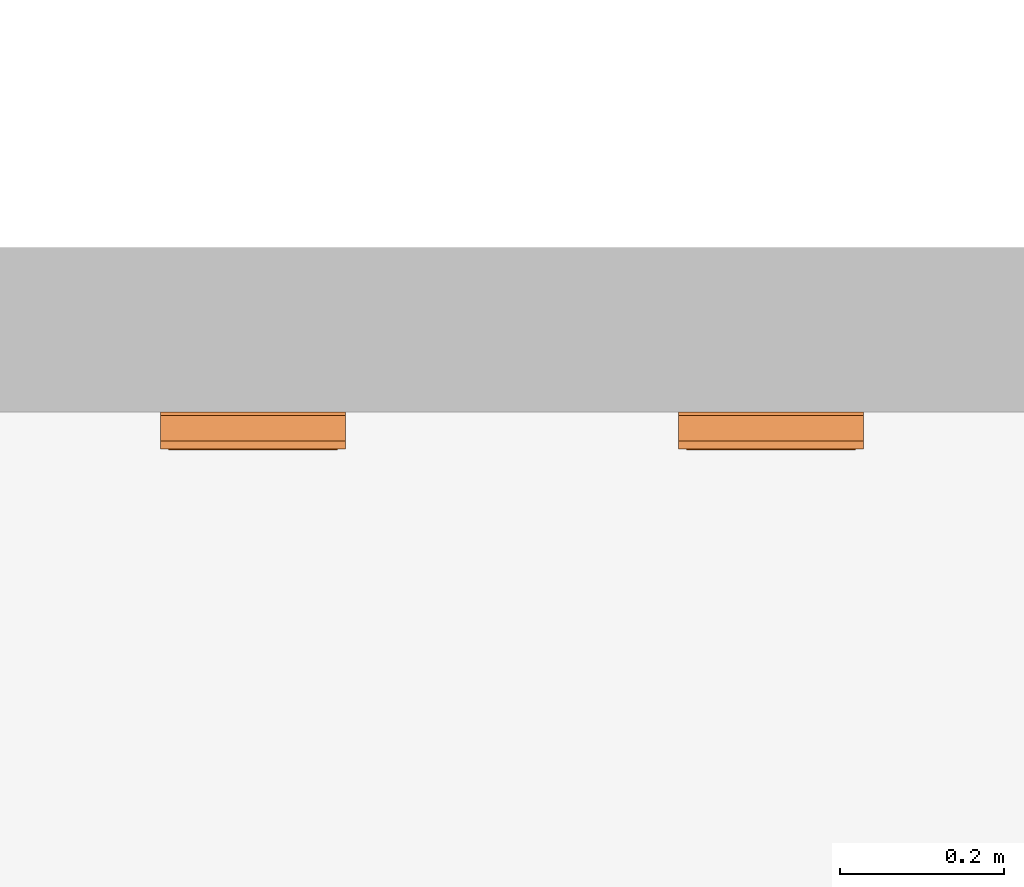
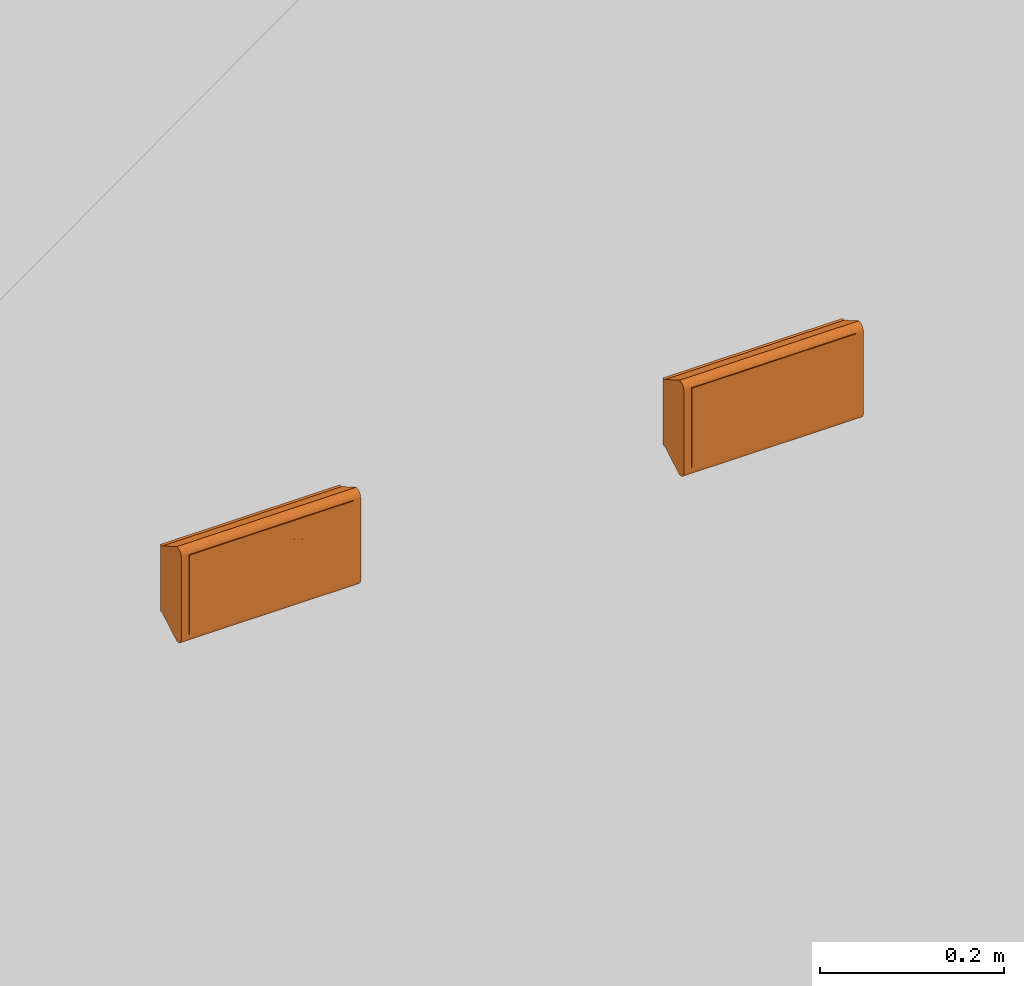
# One storey, part 62 of 197: 2 proxies.
"""IFC2X3 building model written with IfcOpenShell, lengths in metres."""

from ifc_helpers import new_model, entity, si_unit, converted_unit, direction, frame, frame_2d, origin, place, context, subcontext, project, spatial, polyline, circle_curve, parameter, trimmed, segment, composite_curve, circle, outline, extrude, source, transform, mapped, material, material_list, type_object, type_shapes, element, save


model = new_model("IFC2X3")

# Units and contexts
model_context = context("Model", 3, precision=1e-05, world=origin(), true_north=direction((6.123031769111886e-17, 1.0)))
body_context = subcontext(model_context, "Body", "Model", "MODEL_VIEW")
ifc_project = project(units=[si_unit("LENGTHUNIT", "METRE"), converted_unit("PLANEANGLEUNIT", "DEGREE", entity("IfcPlaneAngleMeasure", 0.017453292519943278), si_unit("PLANEANGLEUNIT", "RADIAN"), dimensions=[0, 0, 0, 0, 0, 0, 0]), si_unit("AREAUNIT", "SQUARE_METRE")], contexts=[model_context])

# Site, building, storey
site_placement = place(None, origin())
site = spatial("IfcSite", under=ifc_project, at=site_placement, Name="Default", CompositionType="ELEMENT")
building_placement = place(site_placement, origin())
building = spatial("IfcBuilding", under=site, at=building_placement, CompositionType="ELEMENT")
storey_placement = place(building_placement, origin())
storey = spatial("IfcBuildingStorey", under=building, at=storey_placement, Name="Niveau 0", CompositionType="ELEMENT", Elevation=0.0)

# Proxies
ifc_material_1 = material(Name="BETCE-ENVELOPPE BAES-BLANC")
ifc_material_2 = material(Name="BETCE-ETIQUETTE-VERT 0-193-0")
ifc_material_3 = material(Name="BETCE-VITRE BAES-BLEU")
ifc_material_list = material_list([ifc_material_1, ifc_material_2, ifc_material_3])
building_element_proxy_type_1 = type_object("IfcBuildingElementProxyType", Name="Eclairage de sécurité saillie mur:GAUCHE", PredefinedType="NOTDEFINED", material=ifc_material_list)
shared_shape_1 = source(origin(), body_context, "Body", "SweptSolid", [
    extrude(outline(polyline([(-0.028959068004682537, -0.03330292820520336), (0.0122311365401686, -0.03330292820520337), (0.029966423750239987, -0.012907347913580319), (0.00310324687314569, -0.012907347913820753), (0.03240502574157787, 0.020789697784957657), (0.016088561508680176, 0.034977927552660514), (-0.013213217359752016, 0.0012808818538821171), (-0.016943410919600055, 0.02788381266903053), (-0.03467869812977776, 0.007488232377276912), (-0.028959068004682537, -0.03330292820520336)])), frame((-0.045353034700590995, -0.04599999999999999, 0.0), z_axis=(0.0, 1.0, 0.0), x_axis=(0.6561787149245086, 0.0, 0.7546055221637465)), (0.0, 0.0, 1.0), 0.0010000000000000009),
    extrude(outline(composite_curve([segment(trimmed(circle_curve(frame_2d((0.007847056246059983, -0.014059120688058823), x_axis=(-0.6437060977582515, 0.7652728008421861)), 0.0006110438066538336), [parameter(99.86253538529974)], [parameter(179.99999999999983)], True, "PARAMETER"), True, "CONTINUOUS"), segment(trimmed(circle_curve(frame_2d((0.007847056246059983, -0.014059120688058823), x_axis=(-0.6437060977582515, 0.7652728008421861)), 0.0006110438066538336), [parameter(179.99999999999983)], [parameter(260.13746546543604)], True, "PARAMETER"), True, "CONTINUOUS"), segment(polyline([(0.008375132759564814, -0.013751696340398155), (0.001174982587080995, -0.001383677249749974)]), True, "CONTINUOUS"), segment(trimmed(circle_curve(frame_2d((0.0037627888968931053, -0.0003180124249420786), x_axis=(-0.6437060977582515, 0.7652728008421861)), 0.002798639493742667), [parameter(3.811576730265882e-11)], [parameter(72.31324887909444)], True, "PARAMETER"), False, "CONTINUOUS"), segment(polyline([(0.0019612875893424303, 0.0018237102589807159), (0.015386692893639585, 0.013116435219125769)]), True, "CONTINUOUS"), segment(polyline([(0.015386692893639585, 0.013116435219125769), (0.0035080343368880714, 0.027238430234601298)]), True, "CONTINUOUS"), segment(polyline([(0.0035080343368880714, 0.027238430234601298), (-0.024968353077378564, 0.0032856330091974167)]), True, "CONTINUOUS"), segment(polyline([(-0.024968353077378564, 0.0032856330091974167), (-0.021131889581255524, -0.001275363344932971)]), True, "CONTINUOUS"), segment(polyline([(-0.021131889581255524, -0.001275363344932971), (0.007453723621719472, -0.01452673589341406)]), True, "CONTINUOUS")], self_intersect=False)), frame((0.04943108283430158, -0.04599999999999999, -0.024210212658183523), z_axis=(0.0, 1.0, 0.0), x_axis=(0.7652728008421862, 0.0, 0.6437060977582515)), (0.0, 0.0, 1.0), 0.001000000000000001),
    extrude(outline(composite_curve([segment(polyline([(-0.011174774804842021, -0.003797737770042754), (-0.011174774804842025, -0.010138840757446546)]), True, "CONTINUOUS"), segment(polyline([(-0.011174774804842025, -0.010138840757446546), (0.03194487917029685, -0.010138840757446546)]), True, "CONTINUOUS"), segment(polyline([(0.03194487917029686, -0.010138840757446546), (0.03194487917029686, -0.0024869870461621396)]), True, "CONTINUOUS"), segment(polyline([(0.03194487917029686, -0.0024869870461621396), (0.026012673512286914, -0.0024869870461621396)]), True, "CONTINUOUS"), segment(polyline([(0.026012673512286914, -0.0024869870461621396), (-0.00566103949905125, 0.01043216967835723)]), True, "CONTINUOUS"), segment(trimmed(circle_curve(frame_2d((-0.0076628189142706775, 0.006850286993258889), x_axis=(1.0, 0.0)), 0.004103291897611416), [parameter(60.800818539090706)], [parameter(115.83024310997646)], True, "PARAMETER"), True, "CONTINUOUS"), segment(polyline([(-0.009450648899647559, 0.010543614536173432), (-0.02014056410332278, 0.005368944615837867)]), True, "CONTINUOUS"), segment(trimmed(circle_curve(frame_2d((-0.01977914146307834, 0.004900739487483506), x_axis=(1.0, 0.0)), 0.0005914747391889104), [parameter(127.66570843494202)], [parameter(232.33429156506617)], True, "PARAMETER"), True, "CONTINUOUS"), segment(polyline([(-0.02014056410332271, 0.004432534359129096), (-0.012160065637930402, -0.0017278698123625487)]), True, "CONTINUOUS"), segment(trimmed(circle_curve(frame_2d((-0.013841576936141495, -0.003797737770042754), x_axis=(1.0, 0.0)), 0.0026668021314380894), [parameter(7.124442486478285e-13)], [parameter(50.91041679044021)], True, "PARAMETER"), False, "CONTINUOUS")], self_intersect=False)), frame((0.0281756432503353, -0.046, -0.010852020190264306), z_axis=(0.0, -1.0, 0.0), x_axis=(0.0, 0.0, -1.0)), (0.0, 0.0, -1.0), 0.001000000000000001),
    extrude(outline(composite_curve([segment(polyline([(-0.031714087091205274, -0.031123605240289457), (0.019898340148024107, -0.031123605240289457)]), True, "CONTINUOUS"), segment(polyline([(0.019898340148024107, -0.031123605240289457), (0.01989834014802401, 0.026433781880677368)]), True, "CONTINUOUS"), segment(polyline([(0.01989834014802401, 0.026433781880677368), (0.006609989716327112, 0.026433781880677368)]), True, "CONTINUOUS"), segment(trimmed(circle_curve(frame_2d((0.006609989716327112, 0.02583378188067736), x_axis=(0.0, 1.0)), 0.0006000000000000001), [parameter(0.0)], [parameter(83.97510158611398)], True, "PARAMETER"), True, "CONTINUOUS"), segment(polyline([(0.006013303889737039, 0.025896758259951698), (0.004507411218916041, 0.011628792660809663)]), True, "CONTINUOUS"), segment(trimmed(circle_curve(frame_2d((-0.009425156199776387, 0.013099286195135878), x_axis=(0.0, 1.0)), 0.014009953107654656), [parameter(240.55607644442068)], [parameter(263.9751015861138)], True, "PARAMETER"), False, "CONTINUOUS"), segment(polyline([(0.002775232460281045, 0.006212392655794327), (-0.003131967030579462, -0.00515324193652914)]), True, "CONTINUOUS"), segment(polyline([(-0.003131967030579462, -0.00515324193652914), (0.0052180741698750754, -0.0051532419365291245)]), True, "CONTINUOUS"), segment(polyline([(0.0052180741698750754, -0.0051532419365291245), (0.011569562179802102, 0.0044364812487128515)]), True, "CONTINUOUS"), segment(trimmed(circle_curve(frame_2d((0.013690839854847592, 0.002734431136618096), x_axis=(0.0, 1.0)), 0.0027197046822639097), [parameter(327.3277331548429)], [parameter(51.25747909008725)], True, "PARAMETER"), False, "CONTINUOUS"), segment(trimmed(circle_curve(frame_2d((0.013690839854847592, 0.0027344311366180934), x_axis=(0.0, 1.0)), 0.0027197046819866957), [parameter(243.39798722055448)], [parameter(327.327733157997)], True, "PARAMETER"), False, "CONTINUOUS"), segment(polyline([(0.016122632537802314, 0.0015165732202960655), (0.00885761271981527, -0.009515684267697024)]), True, "CONTINUOUS"), segment(trimmed(circle_curve(frame_2d((0.004813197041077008, -0.005807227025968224), x_axis=(0.0, 1.0)), 0.0054872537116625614), [parameter(181.8824185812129)], [parameter(227.48126930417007)], True, "PARAMETER"), False, "CONTINUOUS"), segment(polyline([(0.004993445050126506, -0.011291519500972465), (-0.009885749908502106, -0.011291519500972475)]), True, "CONTINUOUS"), segment(trimmed(circle_curve(frame_2d((-0.009885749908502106, 0.0017012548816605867), x_axis=(0.0, 1.0)), 0.012992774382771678), [parameter(133.55500193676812)], [parameter(179.9999999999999)], True, "PARAMETER"), False, "CONTINUOUS"), segment(polyline([(-0.019301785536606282, -0.007251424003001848), (-0.02587529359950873, 0.0021607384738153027)]), True, "CONTINUOUS"), segment(polyline([(-0.02587529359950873, 0.0021607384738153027), (-0.03171408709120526, 0.0021607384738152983)]), True, "CONTINUOUS"), segment(polyline([(-0.03171408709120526, 0.0021607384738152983), (-0.031714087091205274, -0.031123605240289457)]), True, "CONTINUOUS")], self_intersect=False), holes=[composite_curve([segment(trimmed(circle_curve(frame_2d((-0.015960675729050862, -0.017960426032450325), x_axis=(0.0, 1.0)), 0.005405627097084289), [parameter(269.999999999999)], [parameter(359.99999999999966)], True, "PARAMETER"), False, "CONTINUOUS"), segment(trimmed(circle_curve(frame_2d((-0.015960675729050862, -0.017960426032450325), x_axis=(0.0, 1.0)), 0.005405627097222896), [parameter(180.00000000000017)], [parameter(270.0)], True, "PARAMETER"), False, "CONTINUOUS"), segment(trimmed(circle_curve(frame_2d((-0.015960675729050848, -0.017960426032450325), x_axis=(0.0, 1.0)), 0.005405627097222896), [parameter(89.99999999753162)], [parameter(179.9999999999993)], True, "PARAMETER"), False, "CONTINUOUS"), segment(trimmed(circle_curve(frame_2d((-0.015960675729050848, -0.017960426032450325), x_axis=(0.0, 1.0)), 0.005405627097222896), [parameter(359.99999999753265)], [parameter(89.99999999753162)], True, "PARAMETER"), False, "CONTINUOUS")], self_intersect=False)]), frame((0.04975088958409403, -0.04599999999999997, 0.008704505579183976), z_axis=(0.0, 1.0, 0.0), x_axis=(1.0, 0.0, 0.0)), (0.0, 0.0, 1.0), 0.001000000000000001),
    extrude(outline(polyline([(-0.05249999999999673, -0.10299999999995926), (0.05249999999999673, -0.10299999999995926), (0.05249999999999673, 0.10299999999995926), (-0.05249999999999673, 0.10299999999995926), (-0.05249999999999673, -0.10299999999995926)]), holes=[polyline([(0.0, 0.08948593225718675), (0.03108235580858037, 0.062457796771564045), (0.031082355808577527, 0.035429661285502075), (0.010811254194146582, 0.05305670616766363), (0.010811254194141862, 0.0084015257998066), (-0.010811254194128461, 0.008401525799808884), (-0.01081125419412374, 0.05305670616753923), (-0.03108235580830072, 0.03542966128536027), (-0.031082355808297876, 0.062457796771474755), (0.0, 0.08948593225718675)]), composite_curve([segment(polyline([(-0.03982811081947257, -0.018036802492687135), (-0.006543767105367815, -0.018036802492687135)]), True, "CONTINUOUS"), segment(polyline([(-0.006543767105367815, -0.018036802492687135), (-0.006543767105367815, -0.02387559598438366)]), True, "CONTINUOUS"), segment(polyline([(-0.006543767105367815, -0.02387559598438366), (-0.01595592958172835, -0.0304491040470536)]), True, "CONTINUOUS"), segment(trimmed(circle_curve(frame_2d((-0.007003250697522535, -0.039865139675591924), x_axis=(-1.0, 0.0)), 0.012992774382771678), [parameter(313.55500193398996)], [parameter(3.5622212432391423e-13)], True, "PARAMETER"), True, "CONTINUOUS"), segment(polyline([(-0.019996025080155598, -0.039865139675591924), (-0.019996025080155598, -0.05474433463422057)]), True, "CONTINUOUS"), segment(trimmed(circle_curve(frame_2d((-0.014511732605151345, -0.05456408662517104), x_axis=(-1.0, 0.0)), 0.0054872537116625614), [parameter(1.8824185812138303)], [parameter(47.481269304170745)], True, "PARAMETER"), True, "CONTINUOUS"), segment(polyline([(-0.018220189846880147, -0.0586085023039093), (-0.0071879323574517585, -0.0658735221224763)]), True, "CONTINUOUS"), segment(trimmed(circle_curve(frame_2d((-0.005970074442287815, -0.06344172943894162), x_axis=(-1.0, 0.0)), 0.0027197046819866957), [parameter(63.39798724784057)], [parameter(147.32773315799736)], True, "PARAMETER"), True, "CONTINUOUS"), segment(trimmed(circle_curve(frame_2d((-0.005970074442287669, -0.06344172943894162), x_axis=(-1.0, 0.0)), 0.0027197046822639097), [parameter(147.3277331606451)], [parameter(231.25747905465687)], True, "PARAMETER"), True, "CONTINUOUS"), segment(polyline([(-0.0042680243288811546, -0.061320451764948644), (-0.013857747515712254, -0.05496896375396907)]), True, "CONTINUOUS"), segment(polyline([(-0.013857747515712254, -0.05496896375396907), (-0.013857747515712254, -0.046618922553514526)]), True, "CONTINUOUS"), segment(polyline([(-0.013857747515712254, -0.046618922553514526), (-0.002492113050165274, -0.052526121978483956)]), True, "CONTINUOUS"), segment(trimmed(circle_curve(frame_2d((0.004394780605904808, -0.04032573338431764), x_axis=(-1.0, 0.0)), 0.014009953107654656), [parameter(60.556075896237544)], [parameter(83.9751015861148)], True, "PARAMETER"), True, "CONTINUOUS"), segment(polyline([(0.0029242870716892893, -0.05425830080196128), (0.017192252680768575, -0.05576419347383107)]), True, "CONTINUOUS"), segment(trimmed(circle_curve(frame_2d((0.017129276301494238, -0.05636087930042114), x_axis=(-1.0, 0.0)), 0.0006000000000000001), [parameter(180.00000000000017)], [parameter(263.9751015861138)], True, "PARAMETER"), False, "CONTINUOUS"), segment(polyline([(0.017729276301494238, -0.05636087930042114), (0.017729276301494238, -0.06964922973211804)]), True, "CONTINUOUS"), segment(polyline([(0.017729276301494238, -0.06964922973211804), (-0.03982811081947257, -0.06964922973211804)]), True, "CONTINUOUS"), segment(polyline([(-0.03982811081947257, -0.06964922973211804), (-0.03982811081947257, -0.018036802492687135)]), True, "CONTINUOUS")], self_intersect=False), composite_curve([segment(polyline([(0.042796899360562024, -0.06964922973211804), (0.024343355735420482, -0.06964922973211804)]), True, "CONTINUOUS"), segment(polyline([(0.024343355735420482, -0.06964922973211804), (0.024343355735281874, -0.05210593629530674)]), True, "CONTINUOUS"), segment(trimmed(circle_curve(frame_2d((0.0215447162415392, -0.05210593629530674), x_axis=(-1.0, 0.0)), 0.002798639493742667), [parameter(179.99999999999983)], [parameter(252.3132488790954)], True, "PARAMETER"), True, "CONTINUOUS"), segment(polyline([(0.022394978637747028, -0.04943958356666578), (0.008295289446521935, -0.04698829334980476)]), True, "CONTINUOUS"), segment(trimmed(circle_curve(frame_2d((0.008399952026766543, -0.04638627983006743), x_axis=(-1.0, 0.0)), 0.0006110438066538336), [parameter(0.0)], [parameter(80.13746546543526)], True, "PARAMETER"), False, "CONTINUOUS"), segment(trimmed(circle_curve(frame_2d((0.008399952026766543, -0.04638627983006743), x_axis=(-1.0, 0.0)), 0.0006110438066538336), [parameter(279.86253451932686)], [parameter(0.0)], True, "PARAMETER"), False, "CONTINUOUS"), segment(polyline([(0.008295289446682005, -0.04578426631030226), (0.03683693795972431, -0.03243846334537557)]), True, "CONTINUOUS"), segment(polyline([(0.03683693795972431, -0.03243846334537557), (0.042796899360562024, -0.03243846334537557)]), True, "CONTINUOUS"), segment(polyline([(0.042796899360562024, -0.03243846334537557), (0.042796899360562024, -0.06964922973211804)]), True, "CONTINUOUS")], self_intersect=False), composite_curve([segment(polyline([(0.042796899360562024, -0.018036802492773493), (0.042796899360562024, -0.025688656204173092)]), True, "CONTINUOUS"), segment(polyline([(0.042796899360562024, -0.025688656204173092), (0.03686469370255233, -0.025688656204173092)]), True, "CONTINUOUS"), segment(polyline([(0.03686469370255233, -0.025688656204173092), (0.005190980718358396, -0.03860781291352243)]), True, "CONTINUOUS"), segment(trimmed(circle_curve(frame_2d((0.0031892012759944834, -0.03502593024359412), x_axis=(-1.0, 0.0)), 0.004103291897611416), [parameter(64.16975689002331)], [parameter(119.19918189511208)], True, "PARAMETER"), False, "CONTINUOUS"), segment(polyline([(0.001401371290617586, -0.03871925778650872), (-0.009288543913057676, -0.03354458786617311)]), True, "CONTINUOUS"), segment(trimmed(circle_curve(frame_2d((-0.008927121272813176, -0.03307638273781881), x_axis=(-1.0, 0.0)), 0.0005914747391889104), [parameter(307.6657084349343)], [parameter(52.33429156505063)], True, "PARAMETER"), False, "CONTINUOUS"), segment(polyline([(-0.009288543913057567, -0.032608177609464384), (-0.0013080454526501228, -0.02644777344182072)]), True, "CONTINUOUS"), segment(trimmed(circle_curve(frame_2d((-0.002989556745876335, -0.024377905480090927), x_axis=(-1.0, 0.0)), 0.0026668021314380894), [parameter(129.08958307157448)], [parameter(180.00000000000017)], True, "PARAMETER"), True, "CONTINUOUS"), segment(polyline([(-0.00032275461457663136, -0.02437790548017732), (-0.00032275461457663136, -0.018036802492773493)]), True, "CONTINUOUS"), segment(polyline([(-0.00032275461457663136, -0.018036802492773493), (0.042796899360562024, -0.018036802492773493)]), True, "CONTINUOUS")], self_intersect=False)]), frame((0.0, -0.046, 0.0), z_axis=(0.0, 1.0, 0.0), x_axis=(0.0, 0.0, -1.0)), (0.0, 0.0, 1.0), 0.001000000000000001),
    extrude(circle(Radius=0.005405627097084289, at=frame_2d((0.0, -2.3552360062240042e-14), x_axis=(1.0, 0.0))), frame((0.03379021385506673, -0.046, 0.0266649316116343), z_axis=(0.0, 1.0, 0.0), x_axis=(0.0, 0.0, 1.0)), (0.0, 0.0, 1.0), 0.001000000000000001),
    extrude(outline(composite_curve([segment(trimmed(circle_curve(frame_2d((-0.0020000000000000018, -0.054499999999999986), x_axis=(1.0, 0.0)), 0.008), [parameter(270.0000000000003)], [parameter(3.5622212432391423e-13)], True, "PARAMETER"), True, "CONTINUOUS"), segment(polyline([(0.005999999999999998, -0.05449999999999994), (0.005999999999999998, 0.05450000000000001)]), True, "CONTINUOUS"), segment(trimmed(circle_curve(frame_2d((-0.0020000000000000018, 0.05450000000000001), x_axis=(1.0, 0.0)), 0.008), [parameter(359.9999999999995)], [parameter(89.99999999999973)], True, "PARAMETER"), True, "CONTINUOUS"), segment(polyline([(-0.001999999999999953, 0.06250000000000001), (-0.003999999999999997, 0.06250000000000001)]), True, "CONTINUOUS"), segment(polyline([(-0.003999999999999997, 0.06250000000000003), (-0.003999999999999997, -0.062499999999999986)]), True, "CONTINUOUS"), segment(polyline([(-0.003999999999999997, -0.0625), (-0.0020000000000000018, -0.0625)]), True, "CONTINUOUS")], self_intersect=False)), frame((-0.1125, -0.039, -0.0019999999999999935), z_axis=(1.0, 0.0, 0.0), x_axis=(0.0, -1.0, 0.0)), (0.0, 0.0, 1.0), 0.22499999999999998),
    extrude(outline(polyline([(-0.0625, -0.02205897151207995), (0.0625, -0.02205897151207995), (0.04449999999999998, 0.009117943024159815), (0.04449999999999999, 0.01294102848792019), (-0.04449999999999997, 0.012941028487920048), (-0.04449999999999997, 0.009117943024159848), (-0.0625, -0.02205897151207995)])), frame((-0.1125, -0.012941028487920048, -0.002000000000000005), z_axis=(1.0, 0.0, 0.0), x_axis=(0.0, 0.0, -1.0)), (0.0, 0.0, 1.0), 0.225),
])
type_shapes(building_element_proxy_type_1, [shared_shape_1])
proxy_1_placement = place(storey_placement, frame((-486.9479728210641, 111.79035524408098, 1.0)))
element("IfcBuildingElementProxy", 1, at=proxy_1_placement, inside=storey, type_object=building_element_proxy_type_1, material=ifc_material_list, Name="Eclairage de sécurité saillie mur:GAUCHE", ObjectType="Eclairage de sécurité saillie mur:GAUCHE", context=body_context, shape_type="MappedRepresentation", body=[
    mapped(shared_shape_1, transform((0.0, 0.0, 0.0), scale=1.0)),
])
building_element_proxy_type_2 = type_object("IfcBuildingElementProxyType", Name="Eclairage de sécurité saillie mur:GAUCHE/DROITE", PredefinedType="NOTDEFINED", material=ifc_material_list)
shared_shape_2 = source(origin(), body_context, "Body", "SweptSolid", [
    extrude(outline(polyline([(-0.028959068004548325, -0.033302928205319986), (0.012231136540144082, -0.03330292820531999), (0.029966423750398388, -0.01290734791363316), (0.003103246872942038, -0.012907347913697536), (0.03240502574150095, 0.02078969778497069), (0.01608856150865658, 0.034977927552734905), (-0.013213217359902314, 0.0012808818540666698), (-0.016943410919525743, 0.027883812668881), (-0.034678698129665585, 0.007488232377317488), (-0.028959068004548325, -0.033302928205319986)])), frame((0.04535303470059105, -0.04599999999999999, 0.0006823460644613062), z_axis=(0.0, 1.0, 0.0), x_axis=(-0.6561787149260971, 0.0, -0.7546055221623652)), (0.0, 0.0, 1.0), 0.0010000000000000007),
    extrude(outline(polyline([(-0.02895906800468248, -0.03330292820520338), (0.012231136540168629, -0.03330292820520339), (0.02996642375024, -0.012907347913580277), (0.003103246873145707, -0.012907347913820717), (0.03240502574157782, 0.020789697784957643), (0.016088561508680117, 0.03497792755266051), (-0.013213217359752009, 0.0012808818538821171), (-0.016943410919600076, 0.027883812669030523), (-0.03467869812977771, 0.0074882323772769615), (-0.02895906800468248, -0.03330292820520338)])), frame((-0.04535303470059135, -0.04599999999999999, 0.0006823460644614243), z_axis=(0.0, 1.0, 0.0), x_axis=(0.6561787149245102, 0.0, 0.7546055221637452)), (0.0, 0.0, 1.0), 0.0010000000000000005),
    extrude(outline(polyline([(-0.10299999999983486, -0.05249999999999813), (0.10299999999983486, -0.05249999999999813), (0.10299999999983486, 0.05249999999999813), (-0.10299999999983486, 0.05249999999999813), (-0.10299999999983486, -0.05249999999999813)]), holes=[polyline([(0.08948593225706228, 0.0), (0.06245779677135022, -0.031082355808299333), (0.035429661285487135, -0.031082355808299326), (0.05305670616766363, -0.010811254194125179), (0.008401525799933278, -0.010811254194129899), (0.008401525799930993, 0.010811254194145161), (0.05305670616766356, 0.010811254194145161), (0.0354296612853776, 0.03108235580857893), (0.06245779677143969, 0.03108235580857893), (0.08948593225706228, 0.0)]), polyline([(-0.08948593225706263, 0.0), (-0.062457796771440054, 0.031082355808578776), (-0.035429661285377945, 0.031082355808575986), (-0.053056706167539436, 0.010811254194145), (-0.008401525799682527, 0.010811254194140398), (-0.00840152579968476, -0.010811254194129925), (-0.05305670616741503, -0.010811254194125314), (-0.03542966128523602, -0.031082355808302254), (-0.06245779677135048, -0.031082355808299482), (-0.08948593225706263, 0.0)])]), frame((0.0, -0.046, 0.0006823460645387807), z_axis=(0.0, 1.0, 0.0), x_axis=(1.0, 0.0, 0.0)), (0.0, 0.0, 1.0), 0.001000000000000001),
    extrude(outline(composite_curve([segment(trimmed(circle_curve(frame_2d((-0.0020000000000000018, -0.054499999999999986), x_axis=(1.0, 0.0)), 0.008), [parameter(270.0000000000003)], [parameter(3.5622212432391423e-13)], True, "PARAMETER"), True, "CONTINUOUS"), segment(polyline([(0.005999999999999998, -0.05449999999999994), (0.005999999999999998, 0.05450000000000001)]), True, "CONTINUOUS"), segment(trimmed(circle_curve(frame_2d((-0.0020000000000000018, 0.05450000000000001), x_axis=(1.0, 0.0)), 0.008), [parameter(359.9999999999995)], [parameter(89.99999999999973)], True, "PARAMETER"), True, "CONTINUOUS"), segment(polyline([(-0.001999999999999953, 0.06250000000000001), (-0.003999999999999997, 0.06250000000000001)]), True, "CONTINUOUS"), segment(polyline([(-0.003999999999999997, 0.06250000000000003), (-0.003999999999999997, -0.062499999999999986)]), True, "CONTINUOUS"), segment(polyline([(-0.003999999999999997, -0.0625), (-0.0020000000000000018, -0.0625)]), True, "CONTINUOUS")], self_intersect=False)), frame((-0.1125, -0.039, -0.0019999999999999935), z_axis=(1.0, 0.0, 0.0), x_axis=(0.0, -1.0, 0.0)), (0.0, 0.0, 1.0), 0.22499999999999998),
    extrude(outline(polyline([(-0.0625, -0.02205897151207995), (0.0625, -0.02205897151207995), (0.04449999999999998, 0.009117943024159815), (0.04449999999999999, 0.01294102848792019), (-0.04449999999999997, 0.012941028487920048), (-0.04449999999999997, 0.009117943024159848), (-0.0625, -0.02205897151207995)])), frame((-0.1125, -0.012941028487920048, -0.002000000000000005), z_axis=(1.0, 0.0, 0.0), x_axis=(0.0, 0.0, -1.0)), (0.0, 0.0, 1.0), 0.225),
])
type_shapes(building_element_proxy_type_2, [shared_shape_2])
proxy_2_placement = place(storey_placement, frame((-486.3179728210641, 111.79035524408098, 1.0)))
element("IfcBuildingElementProxy", 2, at=proxy_2_placement, inside=storey, type_object=building_element_proxy_type_2, material=ifc_material_list, Name="Eclairage de sécurité saillie mur:GAUCHE/DROITE", ObjectType="Eclairage de sécurité saillie mur:GAUCHE/DROITE", context=body_context, shape_type="MappedRepresentation", body=[
    mapped(shared_shape_2, transform((0.0, 0.0, 0.0), scale=1.0)),
])

save(model, "model.ifc")
